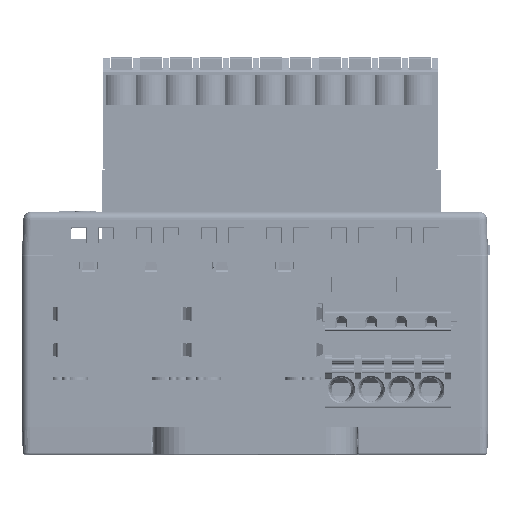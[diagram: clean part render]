
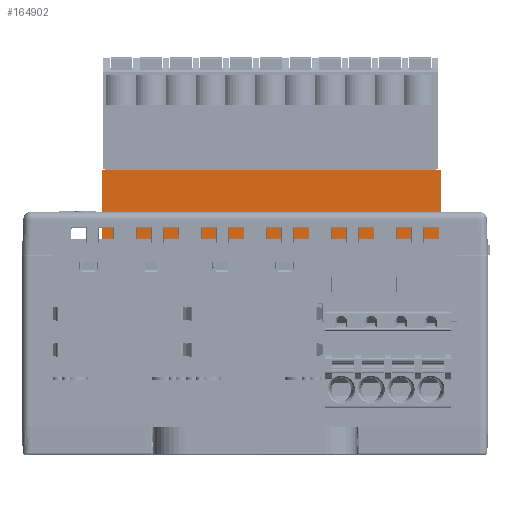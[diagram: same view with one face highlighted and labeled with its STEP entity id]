
A CAD part, front view. The second image highlights one B-rep face of the part: STEP entity #164902.
In plain terms, the highlighted planar face has unit normal (0, -1, 0).
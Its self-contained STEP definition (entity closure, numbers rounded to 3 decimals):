
#43034=DIRECTION('',(1.,0.,0.));
#43035=VECTOR('',#43034,43.3);
#43036=CARTESIAN_POINT('',(-19.55,-19.15,27.5));
#43037=LINE('',#43036,#43035);
#45470=DIRECTION('',(0.,0.,-1.));
#45471=VECTOR('',#45470,8.8);
#45472=CARTESIAN_POINT('',(23.75,-19.15,36.3));
#45473=LINE('',#45472,#45471);
#45478=DIRECTION('',(0.,0.,-1.));
#45479=VECTOR('',#45478,8.8);
#45480=CARTESIAN_POINT('',(-19.55,-19.15,36.3));
#45481=LINE('',#45480,#45479);
#45482=DIRECTION('',(-1.,0.,0.));
#45483=VECTOR('',#45482,43.3);
#45484=CARTESIAN_POINT('',(23.75,-19.15,36.3));
#45485=LINE('',#45484,#45483);
#60616=CARTESIAN_POINT('',(-19.55,-19.15,36.3));
#60618=VERTEX_POINT('',#60616);
#60622=CARTESIAN_POINT('',(23.75,-19.15,36.3));
#60623=VERTEX_POINT('',#60622);
#75256=CARTESIAN_POINT('',(-19.55,-19.15,27.5));
#75258=VERTEX_POINT('',#75256);
#75259=CARTESIAN_POINT('',(23.75,-19.15,27.5));
#75260=VERTEX_POINT('',#75259);
#164890=CARTESIAN_POINT('',(2.1,-19.15,31.7));
#164891=DIRECTION('',(0.,1.,0.));
#164892=DIRECTION('',(1.,0.,0.));
#164893=AXIS2_PLACEMENT_3D('',#164890,#164891,#164892);
#164894=PLANE('',#164893);
#164895=ORIENTED_EDGE('',*,*,#161047,.F.);
#164896=ORIENTED_EDGE('',*,*,#164836,.F.);
#164898=ORIENTED_EDGE('',*,*,#164897,.F.);
#164899=ORIENTED_EDGE('',*,*,#164875,.T.);
#164900=EDGE_LOOP('',(#164895,#164896,#164898,#164899));
#164901=FACE_OUTER_BOUND('',#164900,.F.);
#164902=ADVANCED_FACE('',(#164901),#164894,.F.);
#161047=EDGE_CURVE('',#75258,#75260,#43037,.T.);
#164836=EDGE_CURVE('',#60618,#75258,#45481,.T.);
#164875=EDGE_CURVE('',#60623,#75260,#45473,.T.);
#164897=EDGE_CURVE('',#60623,#60618,#45485,.T.);
